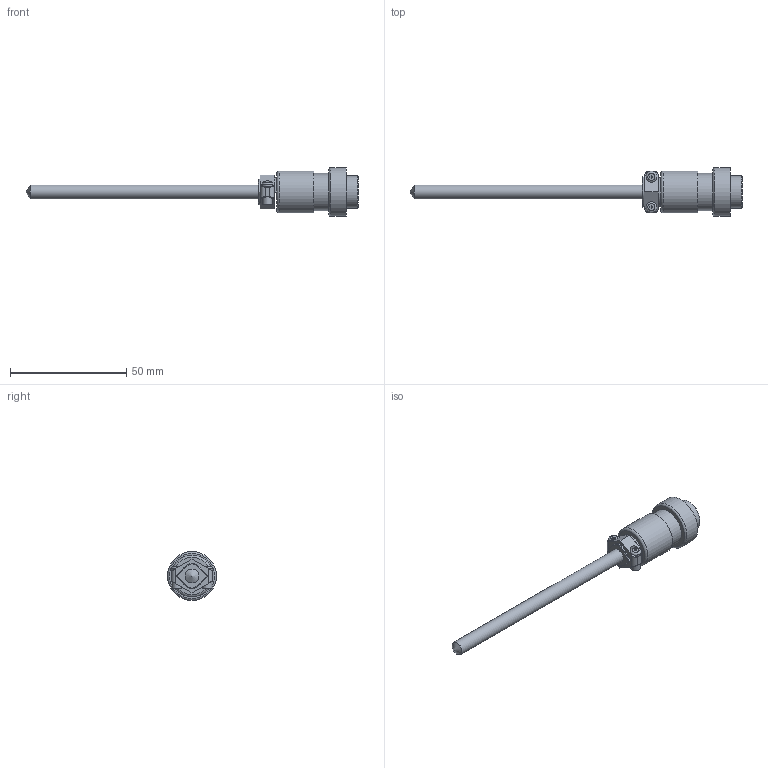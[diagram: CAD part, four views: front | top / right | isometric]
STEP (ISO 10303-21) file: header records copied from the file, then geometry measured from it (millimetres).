
FILE_DESCRIPTION (( 'STEP AP203' ), '1' );
FILE_NAME ('YIR90-5(0).step', '2025-05-28T07:06:23', ( '' ), ( '' ), 'SwSTEP 2.0', 'SolidWorks 2021', '' );
FILE_SCHEMA (( 'CONFIG_CONTROL_DESIGN' ));
Length unit declared in the file: millimetre
Products named in the file (1): YIR90-5(0)
Bounding box: 143 x 21 x 21 mm (x, y, z)
Volume: 11089.9 mm3; surface area: 6664.2 mm2
Topology: 4 solids, 4 shells, 84 faces, 202 edges, 132 vertices
Faces by surface type: plane 50, cylinder 21, torus 4, bspline 4, sphere 3, cone 2
Full cylindrical faces by diameter (mm): 2 x2, 2.5 x1, 4 x2, 4.7 x2, 4.8 x2, 6 x1, 13.5 x1, 14 x1, 16 x2, 18 x1, 21 x1
Entity records: 2421 total; most frequent: CARTESIAN_POINT 621, DIRECTION 336, ORIENTED_EDGE 320, EDGE_CURVE 160, EDGE_LOOP 122, VERTEX_POINT 118, AXIS2_PLACEMENT_3D 117, FACE_OUTER_BOUND 104
